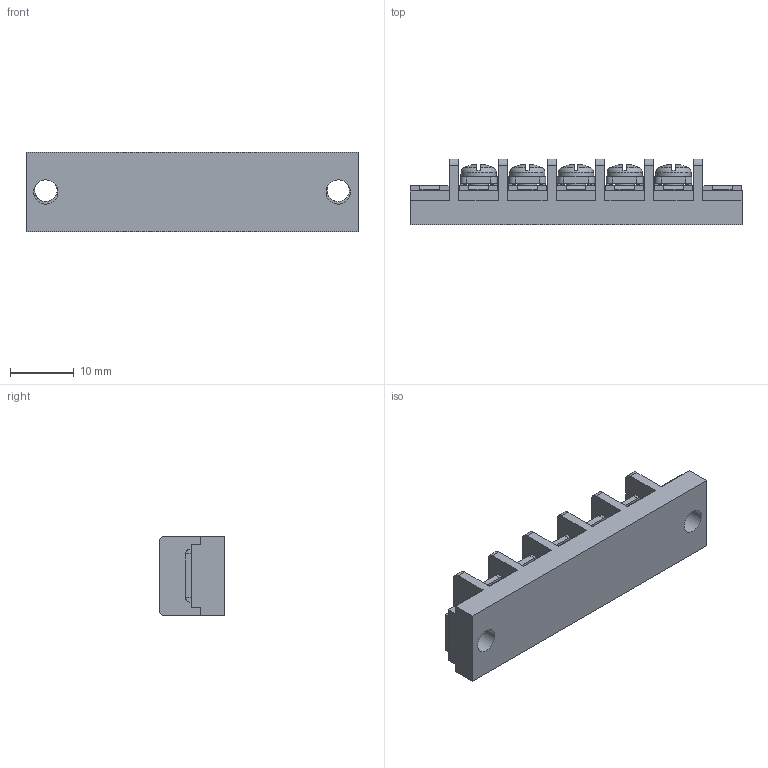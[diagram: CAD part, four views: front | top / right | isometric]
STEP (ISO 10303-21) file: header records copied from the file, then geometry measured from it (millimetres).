
FILE_DESCRIPTION(/* description */ ('Alibre Inc.'),/* implementation_level */ '2;1');
FILE_NAME(/* name */ 'export0',/* time_stamp */ '2015-10-26T18:10:34+09:00',/* author */ (''),/* organization */ (''),/* preprocessor_version */ 'ST-DEVELOPER v14',/* originating_system */ 'Alibre',/* authorisation */ '');
FILE_SCHEMA (('CONFIG_CONTROL_DESIGN'));
Length unit declared in the file: centimetre
Products named in the file (1): ID_1
Bounding box: 51.92 x 10.3 x 12.5 mm (x, y, z)
Volume: 4303.3 mm3; surface area: 3888.2 mm2
Topology: 1 solids, 17 shells, 901 faces, 2441 edges, 1611 vertices
Faces by surface type: plane 692, bspline 104, cylinder 65, cone 20, torus 10, sphere 10
Full cylindrical faces by diameter (mm): 3 x5, 3.5 x2, 3.8 x2, 5.5 x5
Entity records: 26960 total; most frequent: CARTESIAN_POINT 6164, ORIENTED_EDGE 4786, DIRECTION 3162, EDGE_CURVE 2393, VECTOR 1746, LINE 1746, VERTEX_POINT 1587, AXIS2_PLACEMENT_3D 1023
